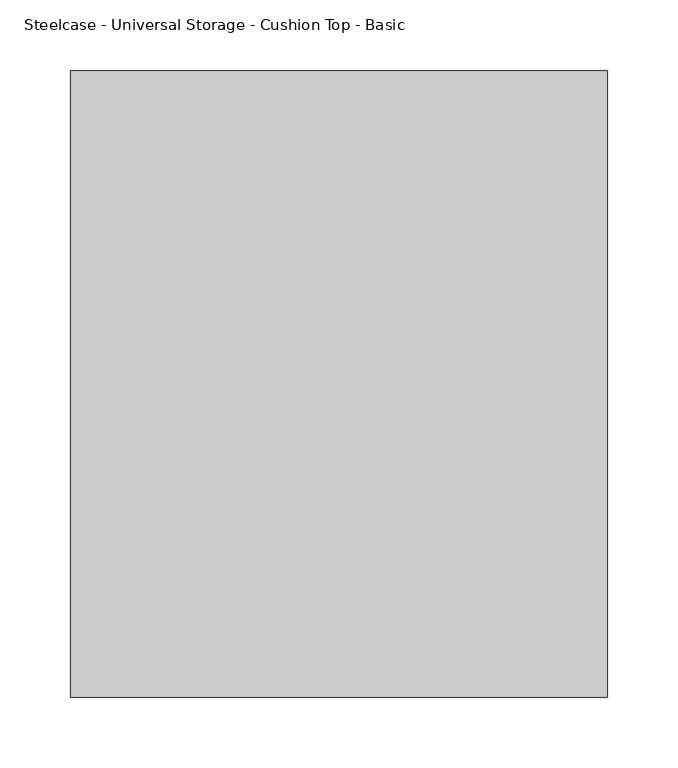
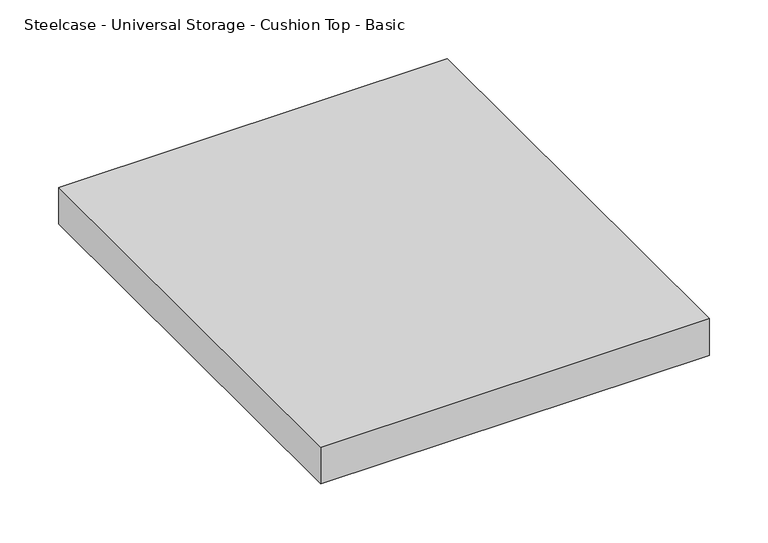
"""IFC4 building model written with IfcOpenShell, lengths in millimetres: furniture geometry, Steelcase - Universal Storage - Cushion Top - Basic : Mobile Pedestal - 18D x 15W."""

from ifc_helpers import new_model, si_unit, frame, origin, place, context, project, spatial, polyline, outline, extrude, source, transform, mapped, element, save


def steelcase_universal_storage_cushion_top_basic_12878556(model_context):
    return source(origin(), model_context, "Body", "SweptSolid", [
        extrude(outline(polyline([(381.0, 0.0), (381.0, -444.5), (0.0, -444.5), (0.0, 0.0), (381.0, 0.0)])), frame((0.0, 0.0, 533.4), z_axis=(0.0, 0.0, 1.0), x_axis=(1.0, 0.0, 0.0)), (0.0, 0.0, 1.0), 38.0999971),
    ])


if __name__ == "__main__":
    model = new_model("IFC4")
    model_context = context("Model", 3, world=origin())
    ifc_project = project(units=[si_unit("LENGTHUNIT", "METRE", prefix="MILLI")], contexts=[model_context])
    site = spatial("IfcSite", under=ifc_project)
    building = spatial("IfcBuilding", under=site)
    placement = place(None, origin())
    steelcase_universal_storage_cushion_top_basic_shape = steelcase_universal_storage_cushion_top_basic_12878556(model_context)
    element("IfcFurniture", 1, ObjectType="Steelcase - Universal Storage - Cushion Top - Basic : Mobile Pedestal - 18D x 15W", at=placement, inside=building, context=model_context, shape_type="MappedRepresentation", body=[
        mapped(steelcase_universal_storage_cushion_top_basic_shape, transform((0.0, 0.0, 0.0), x_axis=(1.0, 0.0, 0.0), y_axis=(0.0, 1.0, 0.0), z_axis=(0.0, 0.0, 1.0))),
    ])
    save(model, "model.ifc")
